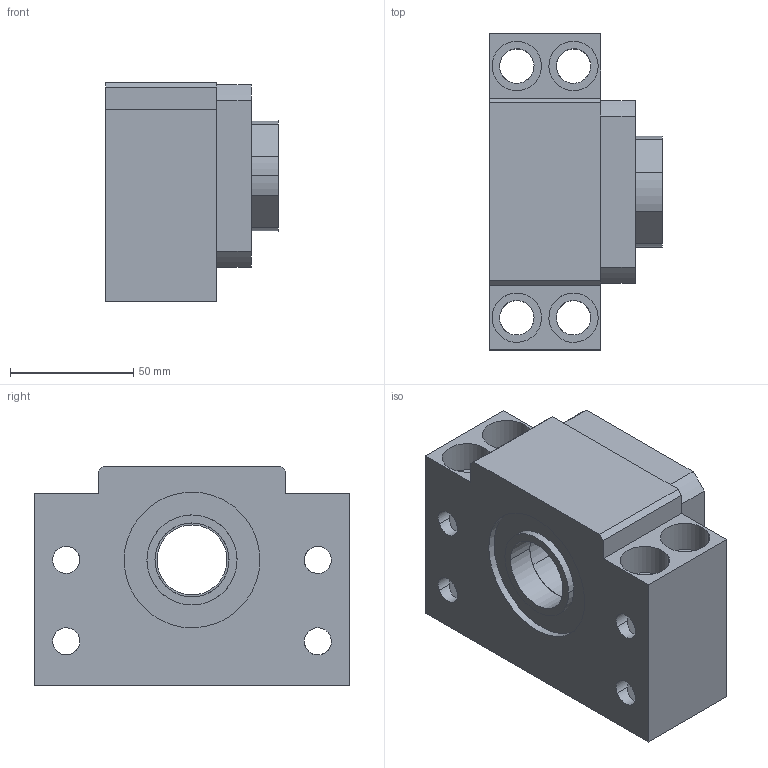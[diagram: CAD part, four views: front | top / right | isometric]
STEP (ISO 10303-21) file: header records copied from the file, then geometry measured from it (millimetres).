
FILE_DESCRIPTION(('CATIA V5 STEP Exchange'),'2;1');
FILE_NAME('D:\서포트 완성도면\BK\BK30.stp','2014-02-10T10:28:45+00:00',('none'),('none'),'CATIA Version 5 Release 18 GA (IN-10)','CATIA V5 STEP AP203','none');
FILE_SCHEMA(('CONFIG_CONTROL_DESIGN'));
Length unit declared in the file: millimetre
Products named in the file (1): BK30
Assembly tree (4 placements, depth 2):
  BK30
    #56
    #3247  x2
    #3434
Bounding box: 70 x 128 x 89 mm (x, y, z)
Volume: 454282.6 mm3; surface area: 75726.2 mm2
Topology: 4 solids, 4 shells, 105 faces, 314 edges, 210 vertices
Faces by surface type: cylinder 70, plane 35
Entity records: 3831 total; most frequent: CARTESIAN_POINT 1252, ORIENTED_EDGE 604, DIRECTION 358, EDGE_CURVE 302, VERTEX_POINT 202, AXIS2_PLACEMENT_3D 160, VECTOR 138, LINE 138
